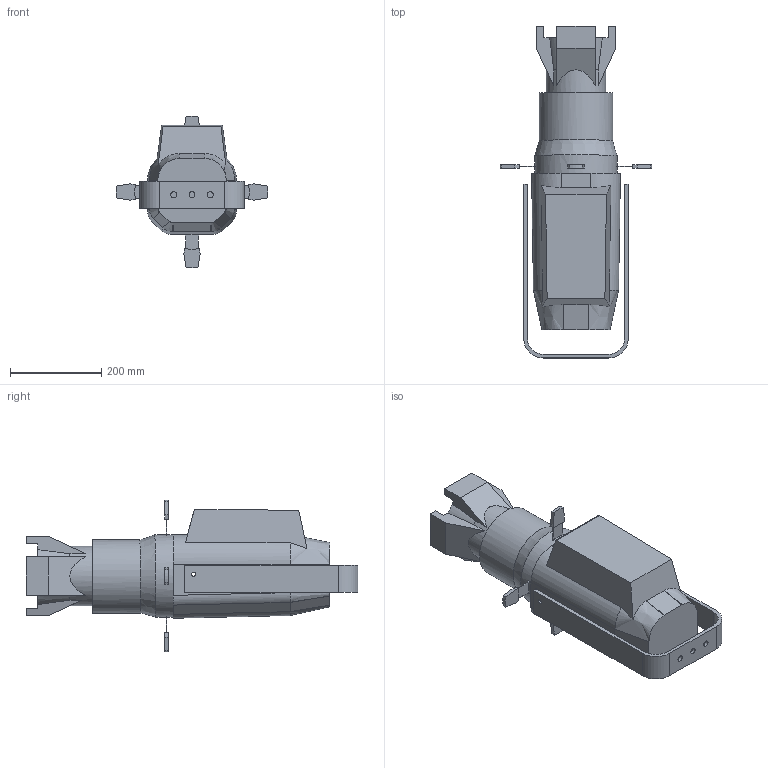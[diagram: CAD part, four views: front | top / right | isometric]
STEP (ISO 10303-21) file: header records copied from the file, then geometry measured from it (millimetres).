
FILE_DESCRIPTION(/* description */ (''),/* implementation_level */ '2;1');
FILE_NAME(/* name */ 'D:/dgooch/Documents/CADENG/PRO/Ovation Réve E-3/0/Ovation Rêve E-3_0.step',/* time_stamp */ '2021-03-18T15:51:51-04:00',/* author */ (''),/* organization */ (''),/* preprocessor_version */ 'ST-DEVELOPER v18.1',/* originating_system */ 'Autodesk Translation Framework v9.10.0.1330',/* authorisation */ '');
FILE_SCHEMA (('AUTOMOTIVE_DESIGN { 1 0 10303 214 3 1 1 }'));
Length unit declared in the file: millimetre
Products named in the file (3): OVATION REVE E-3; Main (1); Bracket_0
Assembly tree (2 placements, depth 2):
  OVATION REVE E-3
    Main (1)
    Bracket_0
Bounding box: 332.08 x 726.98 x 332.08 mm (x, y, z)
Volume: 18379084.7 mm3; surface area: 649682.2 mm2
Topology: 2 solids, 2 shells, 180 faces, 488 edges, 322 vertices
Faces by surface type: plane 107, cylinder 48, bspline 17, cone 8
Full cylindrical faces by diameter (mm): 8.525 x3, 13 x3, 129.5 x2, 160.603 x1, 180.084 x1
Entity records: 6556 total; most frequent: CARTESIAN_POINT 1939, ORIENTED_EDGE 976, DIRECTION 905, EDGE_CURVE 488, VERTEX_POINT 322, LINE 305, VECTOR 305, AXIS2_PLACEMENT_3D 300
